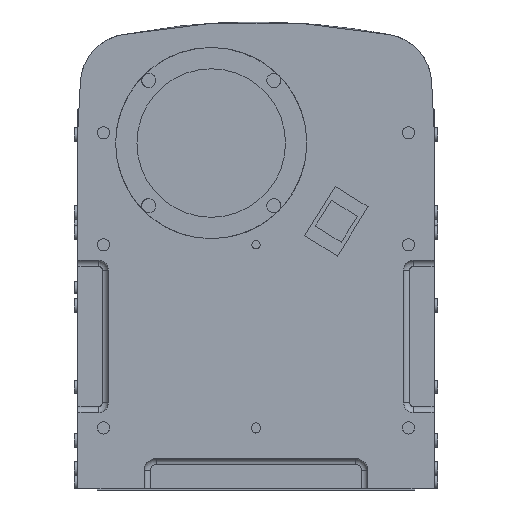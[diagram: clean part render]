
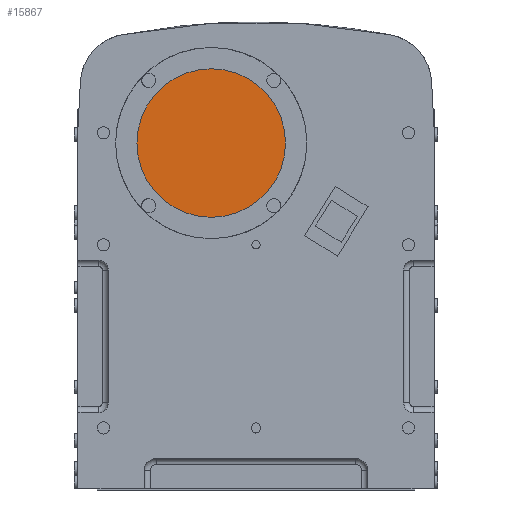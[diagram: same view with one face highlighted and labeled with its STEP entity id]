
A CAD part, front view. The second image highlights one B-rep face of the part: STEP entity #15867.
In plain terms, the highlighted planar face has unit normal (0, -1, 0).
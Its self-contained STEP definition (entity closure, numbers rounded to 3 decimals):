
#2036 = DIRECTION ( 'NONE',  ( 0., 0., -1. ) ) ;
#3795 = DIRECTION ( 'NONE',  ( 0., -1., 0. ) ) ;
#3953 = AXIS2_PLACEMENT_3D ( 'NONE', #5610, #20208, #18448 ) ;
#4598 = EDGE_LOOP ( 'NONE', ( #22664, #14140 ) ) ;
#5610 = CARTESIAN_POINT ( 'NONE',  ( 0., 12.28, 0. ) ) ;
#5703 = EDGE_CURVE ( 'NONE', #10919, #22323, #15250, .T. ) ;
#6917 = EDGE_CURVE ( 'NONE', #22323, #10919, #9235, .T. ) ;
#7003 = FACE_OUTER_BOUND ( 'NONE', #4598, .T. ) ;
#9235 = CIRCLE ( 'NONE', #17540, 36.5 ) ;
#9863 = CARTESIAN_POINT ( 'NONE',  ( 0., 12.28, 36.5 ) ) ;
#10919 = VERTEX_POINT ( 'NONE', #21980 ) ;
#10983 = DIRECTION ( 'NONE',  ( 0., -1., 0. ) ) ;
#12628 = CARTESIAN_POINT ( 'NONE',  ( 0., 12.28, 0. ) ) ;
#14140 = ORIENTED_EDGE ( 'NONE', *, *, #6917, .T. ) ;
#14194 = PLANE ( 'NONE',  #18729 ) ;
#15250 = CIRCLE ( 'NONE', #3953, 36.5 ) ;
#15867 = ADVANCED_FACE ( 'NONE', ( #7003 ), #14194, .T. ) ;
#17540 = AXIS2_PLACEMENT_3D ( 'NONE', #12628, #3795, #2036 ) ;
#18448 = DIRECTION ( 'NONE',  ( 0., 0., -1. ) ) ;
#18729 = AXIS2_PLACEMENT_3D ( 'NONE', #21464, #10983, #21916 ) ;
#20208 = DIRECTION ( 'NONE',  ( 0., -1., 0. ) ) ;
#21464 = CARTESIAN_POINT ( 'NONE',  ( 0., 12.28, 0. ) ) ;
#21916 = DIRECTION ( 'NONE',  ( 0., 0., -1. ) ) ;
#21980 = CARTESIAN_POINT ( 'NONE',  ( 0., 12.28, -36.5 ) ) ;
#22323 = VERTEX_POINT ( 'NONE', #9863 ) ;
#22664 = ORIENTED_EDGE ( 'NONE', *, *, #5703, .T. ) ;
